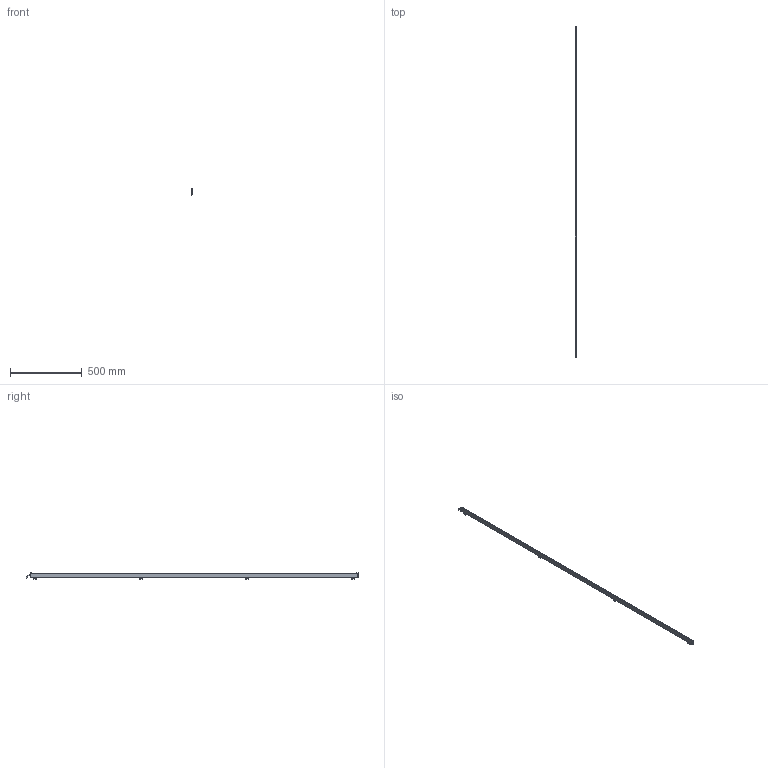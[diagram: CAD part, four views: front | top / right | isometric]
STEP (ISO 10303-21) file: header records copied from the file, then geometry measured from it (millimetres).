
FILE_DESCRIPTION (( 'STEP AP214' ), '1' );
FILE_NAME ('ILG-N-K1-2280mm.STEP', '2017-07-10T13:33:32', ( '' ), ( '' ), 'SwSTEP 2.0', 'SolidWorks 2016', '' );
FILE_SCHEMA (( 'AUTOMOTIVE_DESIGN' ));
Length unit declared in the file: millimetre
Products named in the file (1): ILG-N-K1-2280mm
Bounding box: 10.22 x 2308.25 x 42.41 mm (x, y, z)
Volume: 255936.8 mm3; surface area: 380017.7 mm2
Topology: 13 solids, 13 shells, 573 faces, 1449 edges, 896 vertices
Faces by surface type: plane 329, cylinder 170, cone 64, torus 10
Entity records: 23504 total; most frequent: CARTESIAN_POINT 3067, DIRECTION 2993, ORIENTED_EDGE 2882, EDGE_CURVE 1441, AXIS2_PLACEMENT_3D 1030, VECTOR 933, LINE 933, VERTEX_POINT 896
